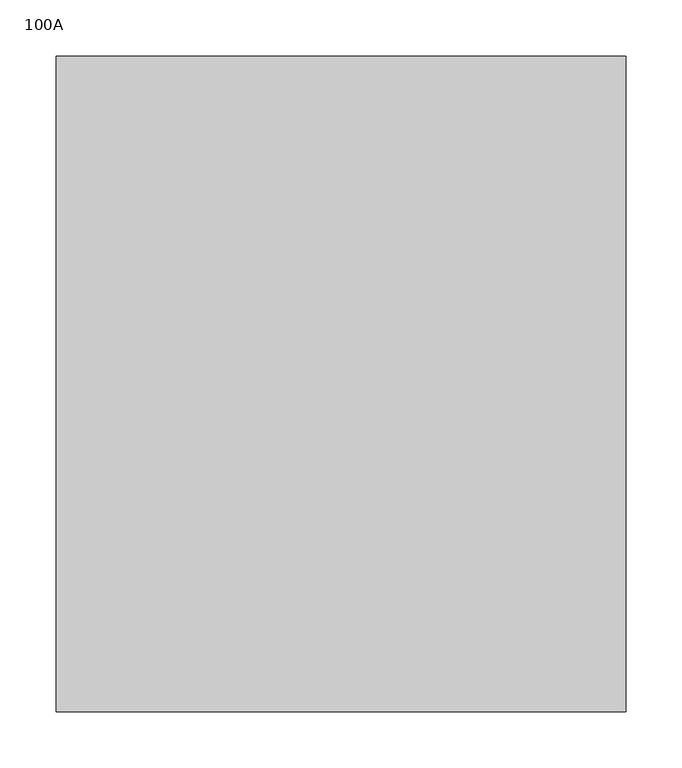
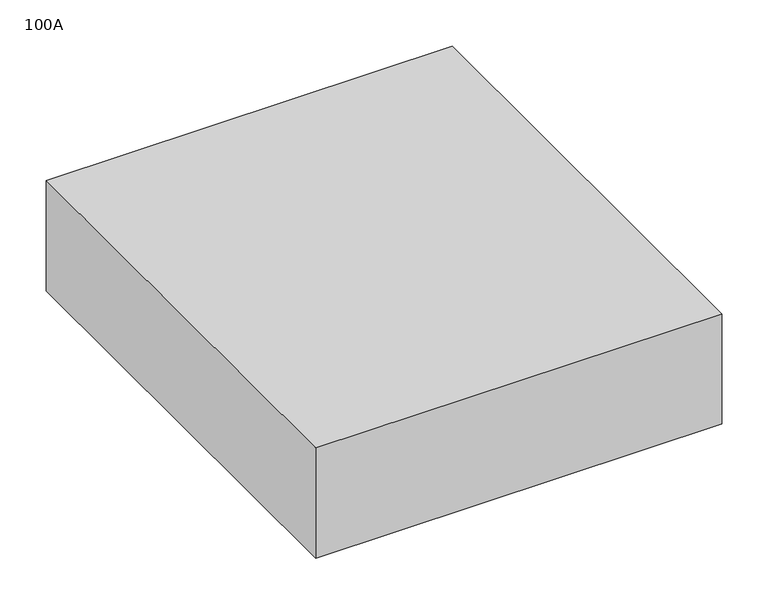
"""IFC4 building model written with IfcOpenShell, lengths in millimetres: proxy geometry, OMAHA - Single Phase Panel - 480V MCB - Surface- CONTROL : 100A."""

from ifc_helpers import new_model, si_unit, origin, origin_with_axes, place, context, project, spatial, polyline, outline, extrude, source, transform, mapped, element, save


def proxy_100a_c6b6ed31(model_context):
    return source(origin(), model_context, "Body", "SweptSolid", [
        extrude(outline(polyline([(254.0, 0.0), (254.0, -584.2), (-254.0, -584.2), (-254.0, 0.0), (254.0, 0.0)])), origin_with_axes(), (0.0, 0.0, 1.0), 146.05),
    ])


if __name__ == "__main__":
    model = new_model("IFC4")
    model_context = context("Model", 3, world=origin())
    ifc_project = project(units=[si_unit("LENGTHUNIT", "METRE", prefix="MILLI")], contexts=[model_context])
    site = spatial("IfcSite", under=ifc_project)
    building = spatial("IfcBuilding", under=site)
    placement = place(None, origin())
    proxy_100a_shape = proxy_100a_c6b6ed31(model_context)
    element("IfcBuildingElementProxy", 1, Name="OMAHA - Single Phase Panel - 480V MCB - Surface- CONTROL : 100A", ObjectType="OMAHA - Single Phase Panel - 480V MCB - Surface- CONTROL : 100A", at=placement, inside=building, context=model_context, shape_type="MappedRepresentation", body=[
        mapped(proxy_100a_shape, transform((0.0, 0.0, 0.0), x_axis=(1.0, 0.0, 0.0), y_axis=(0.0, 1.0, 0.0), z_axis=(0.0, 0.0, 1.0))),
    ])
    save(model, "model.ifc")
